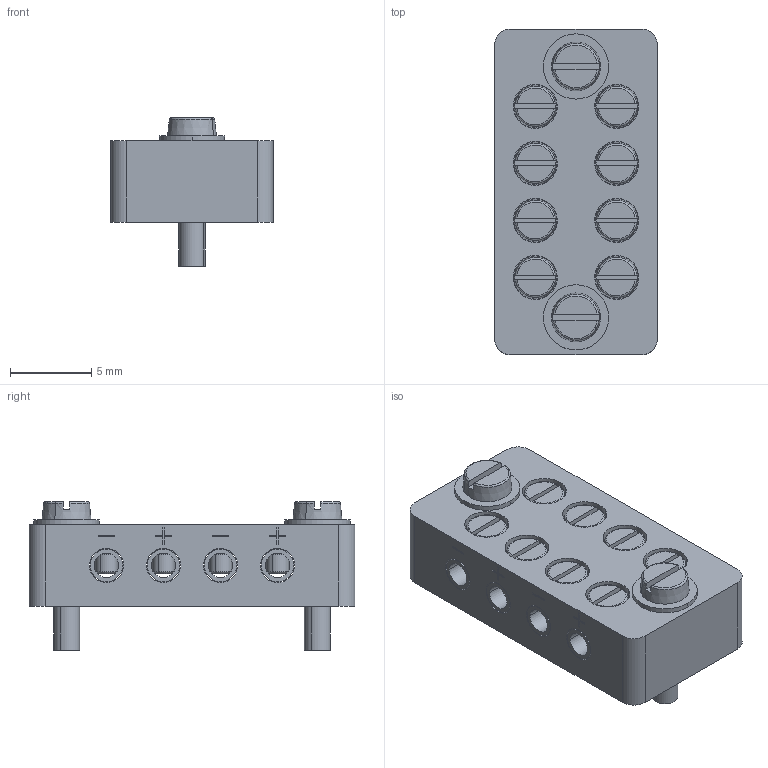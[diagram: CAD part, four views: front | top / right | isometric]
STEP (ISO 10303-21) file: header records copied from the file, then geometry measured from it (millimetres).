
FILE_DESCRIPTION(('CATIA V5 STEP Exchange'),'2;1');
FILE_NAME('W:\KONSTRUKTION\PRODUCTS\EL\ELU\ELULT\ELULTP4TCK\ELULTP4TCK_WithPinLabel_20200625.stp','2020-06-25T14:04:47+00:00',('none'),('none'),'CATIA Version 5 Release 21 GA (IN-10)','CATIA V5 STEP AP203','none');
FILE_SCHEMA(('CONFIG_CONTROL_DESIGN'));
Length unit declared in the file: millimetre
Products named in the file (1): ELULTP4TCK
Assembly tree (17 placements, depth 2):
  ELULTP4TCK
    #58  x4
    #510
    #4552  x8
    #5272  x2
    #5854  x2
Bounding box: 10 x 20 x 9.1 mm (x, y, z)
Volume: 944.3 mm3; surface area: 1873.4 mm2
Topology: 17 solids, 17 shells, 412 faces, 960 edges, 608 vertices
Faces by surface type: plane 168, cylinder 128, torus 60, cone 56
Entity records: 5993 total; most frequent: CARTESIAN_POINT 1431, ORIENTED_EDGE 960, DIRECTION 740, EDGE_CURVE 480, VERTEX_POINT 314, AXIS2_PLACEMENT_3D 299, VECTOR 290, LINE 290
